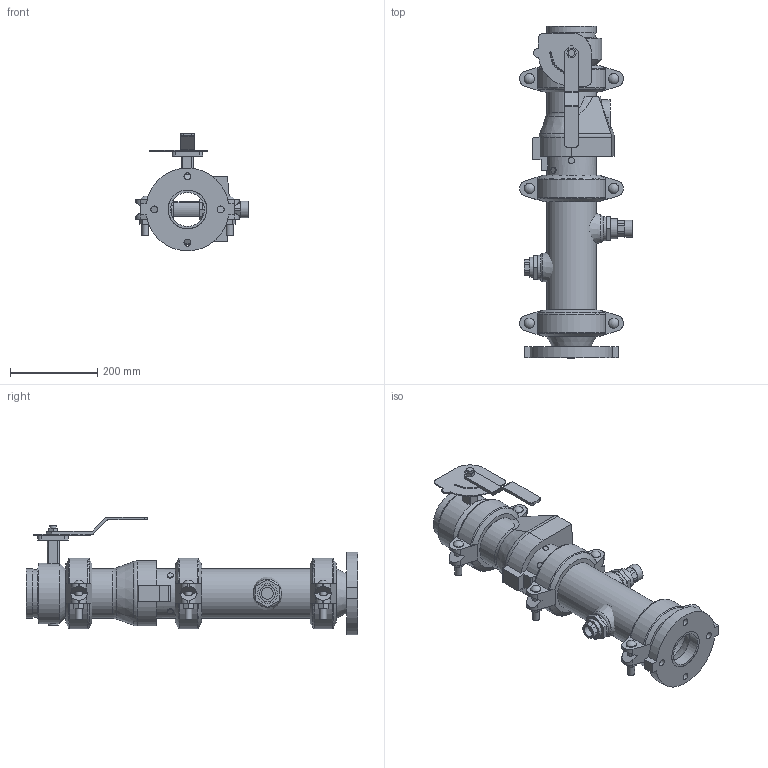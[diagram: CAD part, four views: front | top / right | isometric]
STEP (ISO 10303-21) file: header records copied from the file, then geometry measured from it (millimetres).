
FILE_DESCRIPTION(/* description */ ('VIC DVI PUMP DROP VERT S/380 (OGSxFLG) (S/924-0.75)','CAx-IF Rec.Pracs.---Representation and Presentation of Product Manufacturing Information (PMI)---4.0---2014-10-13'),/* implementation_level */ '2;1');
FILE_NAME(/* name */ 'C:\Users\Public\Documents\Victaulic.Temp\A765\Victaulic_IPS_Vertical DVI_CL 150_Series 380 (OGSxFLG)_924 (0.75)_04.0x03.0 (100x80).stp',/* time_stamp */ '2022-07-25T11:10:49+02:00',/* author */ ('Vjadhav'),/* organization */ ('Victaulic'),/* preprocessor_version */ 'ST-DEVELOPER v18',/* originating_system */ 'Autodesk Inventor 2020',/* authorisation */ '');
FILE_SCHEMA (('AP242_MANAGED_MODEL_BASED_3D_ENGINEERING_MIM_LF { 1 0 10303 442 1 1 4 }'));
Length unit declared in the file: inch
Products named in the file (9): 380_924 (0.75)-04.0x03.0; 741-03.0; 050-04.0x03.0; Pipe-04.0; 177N-04.0; 761-04.0; 779-04.0; 923-04.0x0.75; 924-04.0x0.75
Assembly tree (10 placements, depth 2):
  380_924 (0.75)-04.0x03.0
    741-03.0
    050-04.0x03.0
    177N-04.0  x3
    Pipe-04.0
    761-04.0
    779-04.0
    923-04.0x0.75
    924-04.0x0.75
Bounding box: 258.01 x 762 x 269.92 mm (x, y, z)
Volume: 6155651.7 mm3; surface area: 1068741.4 mm2
Topology: 10 solids, 11 shells, 589 faces, 1537 edges, 1025 vertices
Faces by surface type: plane 345, cylinder 198, cone 20, torus 18, sphere 6, bspline 2
Full cylindrical faces by diameter (mm): 4.826 x10, 8.636 x4, 13.716 x2, 14.986 x2, 15.875 x10, 22.86 x1, 23.495 x6, 26.67 x2, 38.608 x1, 45.974 x4, 55.118 x1, 55.626 x2, 77.927 x1, 84.938 x1, 88.9 x3, 101.6 x3, 102.26 x4, 110.084 x7, 114.3 x19, 139.7 x1
Entity records: 13977 total; most frequent: CARTESIAN_POINT 2763, DIRECTION 2310, ORIENTED_EDGE 2102, EDGE_CURVE 1051, AXIS2_PLACEMENT_3D 876, VERTEX_POINT 705, LINE 558, VECTOR 558
